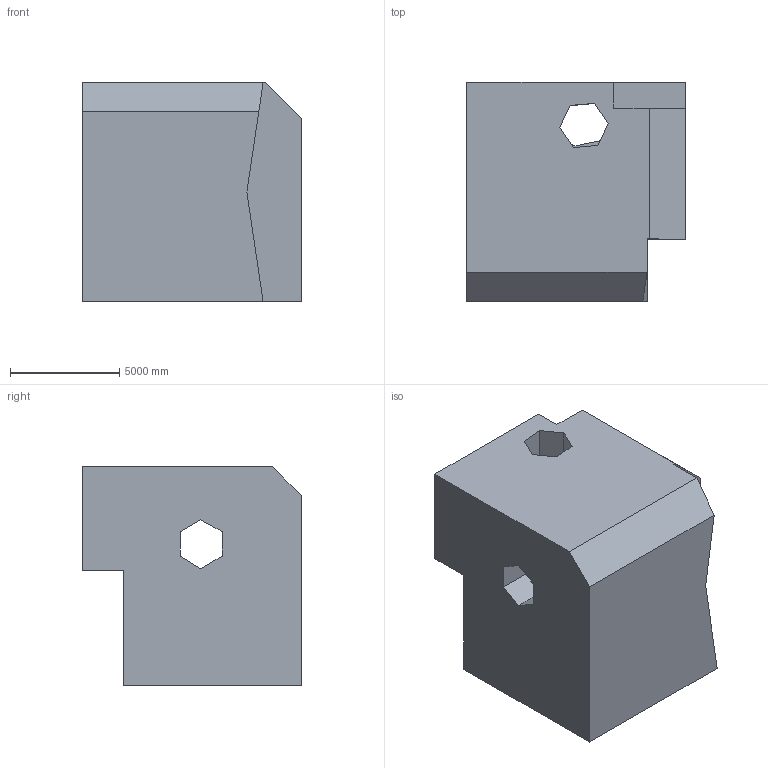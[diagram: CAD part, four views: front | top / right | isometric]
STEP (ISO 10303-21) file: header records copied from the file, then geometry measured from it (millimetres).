
FILE_DESCRIPTION (( 'STEP AP203' ), '1' );
FILE_NAME ('1708.STEP', '2022-08-26T10:32:19', ( 'user' ), ( '' ), 'SwSTEP 2.0', 'SolidWorks 2021', '' );
FILE_SCHEMA (( 'CONFIG_CONTROL_DESIGN' ));
Length unit declared in the file: centimetre
Products named in the file (1): 1708
Bounding box: 10000 x 10000 x 10000 mm (x, y, z)
Volume: 732099489977.8 mm3; surface area: 668194674 mm2
Topology: 1 solids, 1 shells, 35 faces, 99 edges, 66 vertices
Faces by surface type: plane 35
Entity records: 1198 total; most frequent: CARTESIAN_POINT 201, ORIENTED_EDGE 198, DIRECTION 171, LINE 99, VECTOR 99, EDGE_CURVE 99, VERTEX_POINT 66, EDGE_LOOP 39
